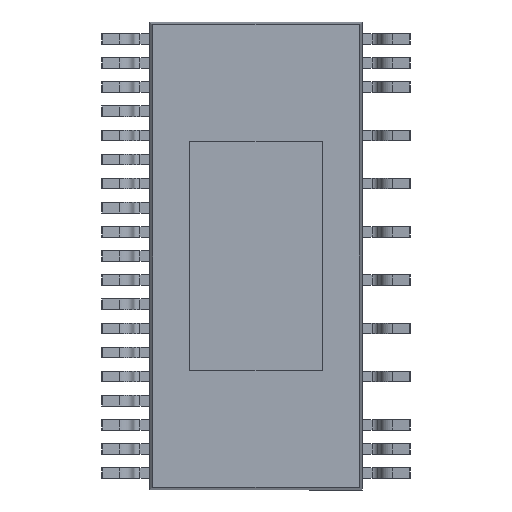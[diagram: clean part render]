
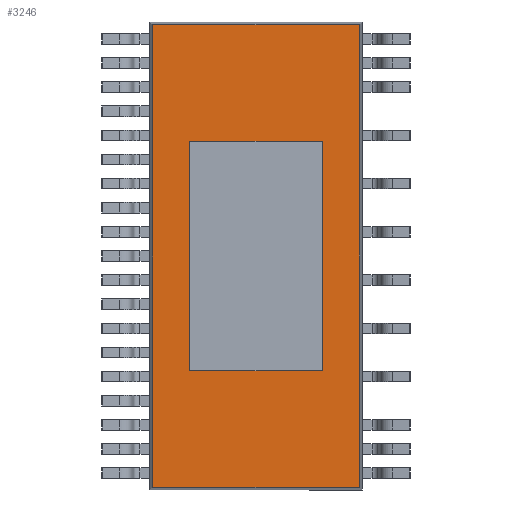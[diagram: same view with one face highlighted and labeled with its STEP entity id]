
A CAD part, front view. The second image highlights one B-rep face of the part: STEP entity #3246.
In plain terms, the highlighted planar face has unit normal (0, -1, 0).
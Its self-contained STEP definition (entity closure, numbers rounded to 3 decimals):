
#8 = VECTOR ( 'NONE', #5487, 1000. ) ;
#488 = LINE ( 'NONE', #11181, #3105 ) ;
#497 = EDGE_CURVE ( 'NONE', #857, #13826, #488, .T. ) ;
#548 = FACE_BOUND ( 'NONE', #1788, .T. ) ;
#776 = CARTESIAN_POINT ( 'NONE',  ( 1.37, 0.15, 2.375 ) ) ;
#857 = VERTEX_POINT ( 'NONE', #776 ) ;
#1238 = ORIENTED_EDGE ( 'NONE', *, *, #3575, .T. ) ;
#1346 = CARTESIAN_POINT ( 'NONE',  ( 1.37, 0.15, -2.375 ) ) ;
#1524 = CARTESIAN_POINT ( 'NONE',  ( -2.144, 0.15, -4.794 ) ) ;
#1620 = DIRECTION ( 'NONE',  ( 0., 0., -1. ) ) ;
#1788 = EDGE_LOOP ( 'NONE', ( #3428, #11621, #5731, #12649 ) ) ;
#2014 = VERTEX_POINT ( 'NONE', #1524 ) ;
#2160 = PLANE ( 'NONE',  #11897 ) ;
#3105 = VECTOR ( 'NONE', #14302, 1000. ) ;
#3246 = ADVANCED_FACE ( 'NONE', ( #548, #4031 ), #2160, .T. ) ;
#3247 = DIRECTION ( 'NONE',  ( 1., 0., 0. ) ) ;
#3428 = ORIENTED_EDGE ( 'NONE', *, *, #4876, .F. ) ;
#3469 = VERTEX_POINT ( 'NONE', #5804 ) ;
#3575 = EDGE_CURVE ( 'NONE', #13775, #2014, #10489, .T. ) ;
#3643 = EDGE_CURVE ( 'NONE', #7542, #13775, #12208, .T. ) ;
#3795 = LINE ( 'NONE', #5557, #10443 ) ;
#4031 = FACE_OUTER_BOUND ( 'NONE', #5040, .T. ) ;
#4846 = CARTESIAN_POINT ( 'NONE',  ( -1.37, 0.15, -2.375 ) ) ;
#4876 = EDGE_CURVE ( 'NONE', #13826, #13922, #14233, .T. ) ;
#5040 = EDGE_LOOP ( 'NONE', ( #7559, #5462, #8742, #1238 ) ) ;
#5122 = CARTESIAN_POINT ( 'NONE',  ( 2.2, 0.15, 4.794 ) ) ;
#5314 = EDGE_CURVE ( 'NONE', #12326, #857, #3795, .T. ) ;
#5462 = ORIENTED_EDGE ( 'NONE', *, *, #8389, .T. ) ;
#5487 = DIRECTION ( 'NONE',  ( 0., 0., -1. ) ) ;
#5503 = DIRECTION ( 'NONE',  ( 0., 0., 1. ) ) ;
#5557 = CARTESIAN_POINT ( 'NONE',  ( 1.37, 0.15, -2.375 ) ) ;
#5731 = ORIENTED_EDGE ( 'NONE', *, *, #5314, .F. ) ;
#5804 = CARTESIAN_POINT ( 'NONE',  ( 2.144, 0.15, -4.794 ) ) ;
#6522 = EDGE_CURVE ( 'NONE', #2014, #3469, #7421, .T. ) ;
#7035 = LINE ( 'NONE', #11004, #12594 ) ;
#7421 = LINE ( 'NONE', #10203, #8463 ) ;
#7542 = VERTEX_POINT ( 'NONE', #8952 ) ;
#7559 = ORIENTED_EDGE ( 'NONE', *, *, #6522, .T. ) ;
#7613 = DIRECTION ( 'NONE',  ( 0., 0., -1. ) ) ;
#7755 = CARTESIAN_POINT ( 'NONE',  ( -2.144, 0.15, 4.85 ) ) ;
#8264 = CARTESIAN_POINT ( 'NONE',  ( -2.144, 0.15, 4.794 ) ) ;
#8389 = EDGE_CURVE ( 'NONE', #3469, #7542, #7035, .T. ) ;
#8463 = VECTOR ( 'NONE', #12499, 1000. ) ;
#8742 = ORIENTED_EDGE ( 'NONE', *, *, #3643, .T. ) ;
#8819 = CARTESIAN_POINT ( 'NONE',  ( 1.37, 0.15, -2.375 ) ) ;
#8952 = CARTESIAN_POINT ( 'NONE',  ( 2.144, 0.15, 4.794 ) ) ;
#9276 = VECTOR ( 'NONE', #9672, 1000. ) ;
#9672 = DIRECTION ( 'NONE',  ( -1., 0., 0. ) ) ;
#10203 = CARTESIAN_POINT ( 'NONE',  ( -2.2, 0.15, -4.794 ) ) ;
#10443 = VECTOR ( 'NONE', #5503, 1000. ) ;
#10489 = LINE ( 'NONE', #7755, #8 ) ;
#10962 = VECTOR ( 'NONE', #1620, 1000. ) ;
#10980 = CARTESIAN_POINT ( 'NONE',  ( 0., 0.15, 0. ) ) ;
#11004 = CARTESIAN_POINT ( 'NONE',  ( 2.144, 0.15, -4.85 ) ) ;
#11181 = CARTESIAN_POINT ( 'NONE',  ( 1.37, 0.15, 2.375 ) ) ;
#11452 = VECTOR ( 'NONE', #3247, 1000. ) ;
#11621 = ORIENTED_EDGE ( 'NONE', *, *, #497, .F. ) ;
#11679 = EDGE_CURVE ( 'NONE', #13922, #12326, #11788, .T. ) ;
#11767 = CARTESIAN_POINT ( 'NONE',  ( -1.37, 0.15, 2.375 ) ) ;
#11788 = LINE ( 'NONE', #8819, #11452 ) ;
#11897 = AXIS2_PLACEMENT_3D ( 'NONE', #10980, #12135, #7613 ) ;
#12135 = DIRECTION ( 'NONE',  ( 0., -1., 0. ) ) ;
#12208 = LINE ( 'NONE', #5122, #9276 ) ;
#12326 = VERTEX_POINT ( 'NONE', #1346 ) ;
#12499 = DIRECTION ( 'NONE',  ( 1., 0., 0. ) ) ;
#12594 = VECTOR ( 'NONE', #13259, 1000. ) ;
#12649 = ORIENTED_EDGE ( 'NONE', *, *, #11679, .F. ) ;
#13259 = DIRECTION ( 'NONE',  ( 0., 0., 1. ) ) ;
#13775 = VERTEX_POINT ( 'NONE', #8264 ) ;
#13826 = VERTEX_POINT ( 'NONE', #11767 ) ;
#13922 = VERTEX_POINT ( 'NONE', #14071 ) ;
#14071 = CARTESIAN_POINT ( 'NONE',  ( -1.37, 0.15, -2.375 ) ) ;
#14233 = LINE ( 'NONE', #4846, #10962 ) ;
#14302 = DIRECTION ( 'NONE',  ( -1., 0., 0. ) ) ;
